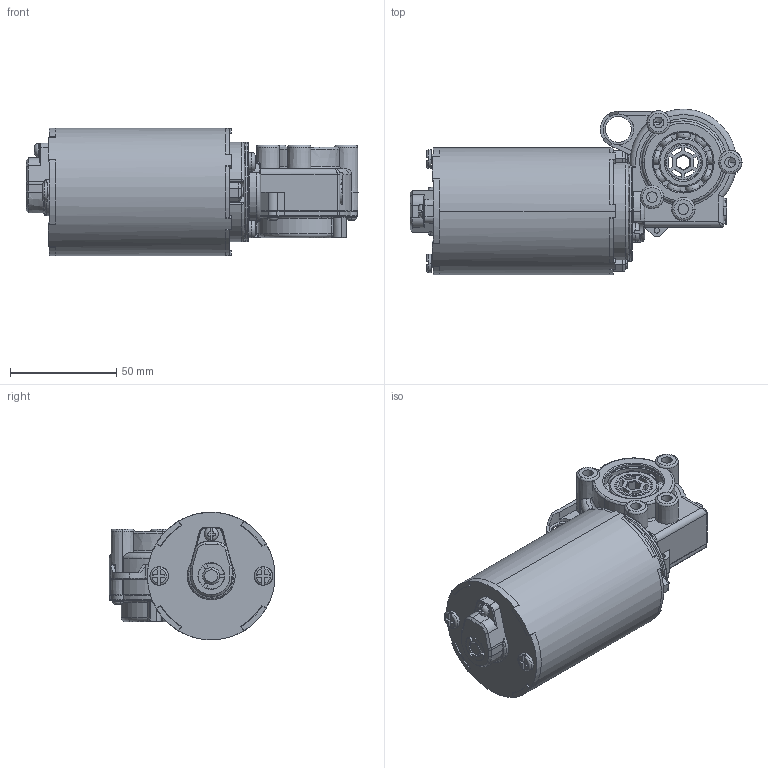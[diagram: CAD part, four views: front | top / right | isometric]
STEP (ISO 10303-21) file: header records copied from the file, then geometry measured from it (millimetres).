
FILE_DESCRIPTION (( 'STEP AP203' ), '1' );
FILE_NAME ('3D_TGM1-A.STEP', '2017-07-07T04:23:18', ( '' ), ( '' ), 'SwSTEP 2.0', 'SolidWorks 2015', '' );
FILE_SCHEMA (( 'CONFIG_CONTROL_DESIGN' ));
Length unit declared in the file: millimetre
Products named in the file (1): 3D_TGM1-A
Bounding box: 156.1 x 77.91 x 60 mm (x, y, z)
Volume: 301269.4 mm3; surface area: 56084.6 mm2
Topology: 2 solids, 8 shells, 1086 faces, 2906 edges, 1814 vertices
Faces by surface type: plane 427, cylinder 303, torus 158, cone 93, bspline 62, sphere 43
Entity records: 37298 total; most frequent: CARTESIAN_POINT 11017, ORIENTED_EDGE 5578, DIRECTION 5559, EDGE_CURVE 2789, AXIS2_PLACEMENT_3D 2203, VERTEX_POINT 1742, CIRCLE 1178, LINE 1153
